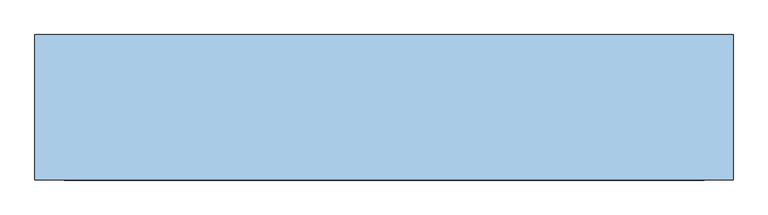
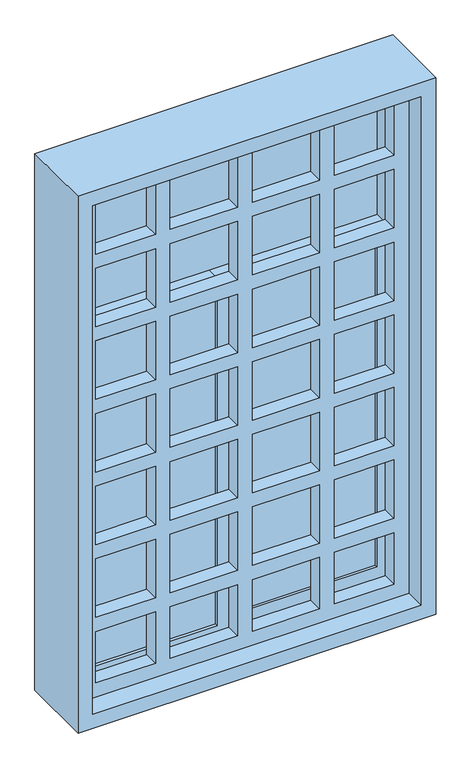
"""IFC4 building model written with IfcOpenShell, lengths in millimetres: window geometry, LC9_带格栅 : LC9_带格栅."""

import ifcopenshell
import ifcopenshell.guid

model = None  # the IFC model being written
_history = None  # IfcOwnerHistory: only IFC2X3 demands one
_inside = {}  # id of a spatial element -> (the spatial element, [elements in it])
_under = {}  # id of a project, library or spatial element -> (it, [spatial elements below it])
_declared = {}  # id of a project -> (the project, [libraries it declares])
_typed = {}  # id of a type object -> (the type object, [elements of that type])
_made_of = {}  # id of a material, layer set ... -> (it, [elements and type objects made of it])


def new_model(schema):
    """Start an empty IFC model of exactly this schema.

    Asked for "IFC4X3", IfcOpenShell would pick the latest addendum, in which some entities
    have other attributes; the version numbers below select the first issue.
    IFC2X3 requires an IfcOwnerHistory on every rooted entity: one is made here for all.
    """
    global model, _history
    if schema == "IFC4X3":
        model = ifcopenshell.file(schema_version=(4, 3, 0, 0))
    else:
        model = ifcopenshell.file(schema=schema)
    _inside.clear()
    _under.clear()
    _declared.clear()
    _typed.clear()
    _made_of.clear()
    _history = None
    if model.schema == "IFC2X3":
        org = make("IfcOrganization", Name="unknown")
        user = make(
            "IfcPersonAndOrganization",
            ThePerson=make("IfcPerson", FamilyName="unknown"),
            TheOrganization=org,
        )
        app = make(
            "IfcApplication",
            ApplicationDeveloper=org,
            Version="unknown",
            ApplicationFullName="unknown",
            ApplicationIdentifier="unknown",
        )
        _history = make(
            "IfcOwnerHistory",
            OwningUser=user,
            OwningApplication=app,
            ChangeAction="ADDED",
            CreationDate=0,
        )
    return model


def make(cls, **values):
    """One entity of the class cls with the attributes given. An attribute that is None is left unset."""
    return model.create_entity(
        cls, **{name: value for name, value in values.items() if value is not None}
    )


def rooted(cls, **values):
    """An entity with a GlobalId (a new one), such as an element, a storey or a relation."""
    return make(cls, GlobalId=ifcopenshell.guid.new(), OwnerHistory=_history, **values)


def si_unit(unit_type, name, prefix=None):
    """IfcSIUnit, for example si_unit("LENGTHUNIT", "METRE", prefix="MILLI")."""
    return make("IfcSIUnit", UnitType=unit_type, Prefix=prefix, Name=name)


def assignment(units):
    """IfcUnitAssignment: the units of a project."""
    return None if units is None else make("IfcUnitAssignment", Units=units)


def point(xyz):
    """IfcCartesianPoint."""
    return None if xyz is None else make("IfcCartesianPoint", Coordinates=xyz)


def direction(xyz):
    """IfcDirection."""
    return None if xyz is None else make("IfcDirection", DirectionRatios=xyz)


def frame(location, z_axis=None, x_axis=None):
    """IfcAxis2Placement3D, a coordinate frame: its origin and axes. An axis left out is left unset."""
    return make(
        "IfcAxis2Placement3D",
        Location=point(location),
        Axis=direction(z_axis),
        RefDirection=direction(x_axis),
    )


def origin():
    """The frame at (0, 0, 0) with its axes left unset."""
    return frame((0.0, 0.0, 0.0))


def place(relative_to, where):
    """IfcLocalPlacement: puts the frame where relative to a parent placement (None: the world)."""
    return make(
        "IfcLocalPlacement", PlacementRelTo=relative_to, RelativePlacement=where
    )


def context(
    kind, dimensions, precision=None, world=None, true_north=None, identifier=None
):
    """IfcGeometricRepresentationContext, for example the 3D "Model" context."""
    return make(
        "IfcGeometricRepresentationContext",
        ContextIdentifier=identifier,
        ContextType=kind,
        CoordinateSpaceDimension=dimensions,
        Precision=precision,
        WorldCoordinateSystem=world,
        TrueNorth=true_north,
    )


def project(units=None, contexts=None):
    """IfcProject with its units and contexts."""
    return rooted(
        "IfcProject",
        Name="project",
        RepresentationContexts=contexts,
        UnitsInContext=assignment(units),
    )


def spatial(cls, under=None, at=None, **own):
    """A site, building, storey or space (cls), placed at a placement, below another one or the project."""
    s = rooted(cls, ObjectPlacement=at, **own)
    if under is not None:
        _under.setdefault(under.id(), (under, []))[1].append(s)
    return s


def polyline(points):
    """IfcPolyline through the points."""
    return make("IfcPolyline", Points=[point(p) for p in points])


def outline(outer, holes=None, kind="AREA"):
    """IfcArbitraryClosedProfileDef: a profile drawn as a closed curve; with holes, ...WithVoids."""
    if holes is None:
        return make("IfcArbitraryClosedProfileDef", ProfileType=kind, OuterCurve=outer)
    return make(
        "IfcArbitraryProfileDefWithVoids",
        ProfileType=kind,
        OuterCurve=outer,
        InnerCurves=holes,
    )


def extrude(swept, where, along, depth):
    """IfcExtrudedAreaSolid: the profile swept, set in the frame where, extruded along a direction by depth."""
    return make(
        "IfcExtrudedAreaSolid",
        SweptArea=swept,
        Position=where,
        ExtrudedDirection=direction(along),
        Depth=depth,
    )


def shape(context_of_items, identifier, shape_type, items):
    """IfcShapeRepresentation: the items that make up one representation, for example the "Body"."""
    return make(
        "IfcShapeRepresentation",
        ContextOfItems=context_of_items,
        RepresentationIdentifier=identifier,
        RepresentationType=shape_type,
        Items=items,
    )


def source(mapping_origin, context_of_items, identifier, shape_type, items):
    """IfcRepresentationMap: a shape defined once, which mapped items show again and again."""
    return make(
        "IfcRepresentationMap",
        MappingOrigin=mapping_origin,
        MappedRepresentation=shape(context_of_items, identifier, shape_type, items),
    )


def transform(
    local_origin,
    x_axis=None,
    y_axis=None,
    z_axis=None,
    scale=None,
    scale2=None,
    scale3=None,
    uniform=True,
):
    """IfcCartesianTransformationOperator3D, or its non-uniform kind. x_axis, y_axis, z_axis: its Axis1, 2, 3."""
    if uniform:
        return make(
            "IfcCartesianTransformationOperator3D",
            Axis1=direction(x_axis),
            Axis2=direction(y_axis),
            LocalOrigin=point(local_origin),
            Scale=scale,
            Axis3=direction(z_axis),
        )
    return make(
        "IfcCartesianTransformationOperator3DnonUniform",
        Axis1=direction(x_axis),
        Axis2=direction(y_axis),
        LocalOrigin=point(local_origin),
        Scale=scale,
        Axis3=direction(z_axis),
        Scale2=scale2,
        Scale3=scale3,
    )


def mapped(mapping_source, mapping_target):
    """IfcMappedItem: shows the shape of a source again, moved by a transform."""
    return make(
        "IfcMappedItem", MappingSource=mapping_source, MappingTarget=mapping_target
    )


def made_of(thing, what):
    """Note that an element or type object is made of a material, layer set ...; save() writes the relation."""
    if what is not None:
        _made_of.setdefault(what.id(), (what, []))[1].append(thing)
    return thing


def element(
    cls,
    number,
    at=None,
    inside=None,
    cuts=None,
    type_object=None,
    material=None,
    context=None,
    identifier="Body",
    shape_type=None,
    held_by="IfcProductDefinitionShape",
    body=None,
    shapes=None,
    **own,
):
    """One element of the class cls, such as IfcWall. Its Tag is "e" and its number.

    at: its placement. inside: the storey or other place that contains it. cuts: it is an
    opening in that element (IfcRelVoidsElement). A single representation is given by context,
    identifier, shape_type and body (its items); several are given by shapes. held_by: the class
    of the entity that holds the representations. save() writes the other relations.
    """
    e = rooted(cls, Tag="e%d" % number, ObjectPlacement=at, **own)
    if body is not None:
        shapes = [shape(context, identifier, shape_type, body)]
    if shapes is not None:
        e.Representation = make(held_by, Representations=shapes)
    if inside is not None:
        _inside.setdefault(inside.id(), (inside, []))[1].append(e)
    if cuts is not None:
        rooted(
            "IfcRelVoidsElement", RelatingBuildingElement=cuts, RelatedOpeningElement=e
        )
    if type_object is not None:
        _typed.setdefault(type_object.id(), (type_object, []))[1].append(e)
    return made_of(e, material)


def aggregate(whole, parts):
    """IfcRelAggregates: a whole, such as a stair, and the parts it consists of."""
    return rooted("IfcRelAggregates", RelatingObject=whole, RelatedObjects=parts)


def save(model, path):
    """Write the relations noted so far, then the file.

    IfcRelAggregates (storeys below a building ...), IfcRelContainedInSpatialStructure (elements
    in a storey), IfcRelDefinesByType, IfcRelAssociatesMaterial and IfcRelDeclares: one each for
    every whole, place, type object, material and project.
    """
    for whole, parts in _under.values():
        aggregate(whole, parts)
    for where, things in _inside.values():
        rooted(
            "IfcRelContainedInSpatialStructure",
            RelatedElements=things,
            RelatingStructure=where,
        )
    for kind, things in _typed.values():
        rooted("IfcRelDefinesByType", RelatedObjects=things, RelatingType=kind)
    for what, things in _made_of.values():
        rooted("IfcRelAssociatesMaterial", RelatedObjects=things, RelatingMaterial=what)
    for by, libraries in _declared.values():
        rooted("IfcRelDeclares", RelatingContext=by, RelatedDefinitions=libraries)
    model.write(path)


def window_f5fa71fb(model_context):
    return source(origin(), model_context, "Body", "SweptSolid", [
        extrude(outline(polyline([(3350.0, 550.0), (3350.0, -550.0), (1550.0, -550.0), (1550.0, 550.0), (3350.0, 550.0)]), holes=[polyline([(3300.0, -300.0), (3117.8571429, -300.0), (3117.8571429, -500.0), (3300.0, -500.0), (3300.0, -300.0)]), polyline([(3300.0, -25.0), (3117.8571429, -25.0), (3117.8571429, -250.0), (3300.0, -250.0), (3300.0, -25.0)]), polyline([(3300.0, 250.0), (3117.8571429, 250.0), (3117.8571429, 25.0), (3300.0, 25.0), (3300.0, 250.0)]), polyline([(3300.0, 500.0), (3117.8571429, 500.0), (3117.8571429, 300.0), (3300.0, 300.0), (3300.0, 500.0)]), polyline([(3067.8571429, -300.0), (2860.7142857, -300.0), (2860.7142857, -500.0), (3067.8571429, -500.0), (3067.8571429, -300.0)]), polyline([(3067.8571429, -25.0), (2860.7142857, -25.0), (2860.7142857, -250.0), (3067.8571429, -250.0), (3067.8571429, -25.0)]), polyline([(3067.8571429, 250.0), (2860.7142857, 250.0), (2860.7142857, 25.0), (3067.8571429, 25.0), (3067.8571429, 250.0)]), polyline([(3067.8571429, 500.0), (2860.7142857, 500.0), (2860.7142857, 300.0), (3067.8571429, 300.0), (3067.8571429, 500.0)]), polyline([(2810.7142857, -300.0), (2603.5714286, -300.0), (2603.5714286, -500.0), (2810.7142857, -500.0), (2810.7142857, -300.0)]), polyline([(2810.7142857, -25.0), (2603.5714286, -25.0), (2603.5714286, -250.0), (2810.7142857, -250.0), (2810.7142857, -25.0)]), polyline([(2810.7142857, 250.0), (2603.5714286, 250.0), (2603.5714286, 25.0), (2810.7142857, 25.0), (2810.7142857, 250.0)]), polyline([(2810.7142857, 500.0), (2603.5714286, 500.0), (2603.5714286, 300.0), (2810.7142857, 300.0), (2810.7142857, 500.0)]), polyline([(2553.5714286, -300.0), (2346.4285714, -300.0), (2346.4285714, -500.0), (2553.5714286, -500.0), (2553.5714286, -300.0)]), polyline([(2553.5714286, -25.0), (2346.4285714, -25.0), (2346.4285714, -250.0), (2553.5714286, -250.0), (2553.5714286, -25.0)]), polyline([(2553.5714286, 250.0), (2346.4285714, 250.0), (2346.4285714, 25.0), (2553.5714286, 25.0), (2553.5714286, 250.0)]), polyline([(2553.5714286, 500.0), (2346.4285714, 500.0), (2346.4285714, 300.0), (2553.5714286, 300.0), (2553.5714286, 500.0)]), polyline([(2296.4285714, -300.0), (2089.2857143, -300.0), (2089.2857143, -500.0), (2296.4285714, -500.0), (2296.4285714, -300.0)]), polyline([(2296.4285714, -25.0), (2089.2857143, -25.0), (2089.2857143, -250.0), (2296.4285714, -250.0), (2296.4285714, -25.0)]), polyline([(2296.4285714, 250.0), (2089.2857143, 250.0), (2089.2857143, 25.0), (2296.4285714, 25.0), (2296.4285714, 250.0)]), polyline([(2296.4285714, 500.0), (2089.2857143, 500.0), (2089.2857143, 300.0), (2296.4285714, 300.0), (2296.4285714, 500.0)]), polyline([(2039.2857143, -300.0), (1832.1428571, -300.0), (1832.1428571, -500.0), (2039.2857143, -500.0), (2039.2857143, -300.0)]), polyline([(2039.2857143, -25.0), (1832.1428571, -25.0), (1832.1428571, -250.0), (2039.2857143, -250.0), (2039.2857143, -25.0)]), polyline([(2039.2857143, 250.0), (1832.1428571, 250.0), (1832.1428571, 25.0), (2039.2857143, 25.0), (2039.2857143, 250.0)]), polyline([(2039.2857143, 500.0), (1832.1428571, 500.0), (1832.1428571, 300.0), (2039.2857143, 300.0), (2039.2857143, 500.0)]), polyline([(1782.1428571, -300.0), (1600.0, -300.0), (1600.0, -500.0), (1782.1428571, -500.0), (1782.1428571, -300.0)]), polyline([(1782.1428571, -25.0), (1600.0, -25.0), (1600.0, -250.0), (1782.1428571, -250.0), (1782.1428571, -25.0)]), polyline([(1782.1428571, 250.0), (1600.0, 250.0), (1600.0, 25.0), (1782.1428571, 25.0), (1782.1428571, 250.0)]), polyline([(1782.1428571, 500.0), (1600.0, 500.0), (1600.0, 300.0), (1782.1428571, 300.0), (1782.1428571, 500.0)])]), frame((0.0, -46.3011339, 0.0), z_axis=(0.0, 1.0, 0.0), x_axis=(0.0, 0.0, 1.0)), (0.0, 0.0, 1.0), 50.0),
        extrude(outline(polyline([(500.0, 63.7293154), (50.0, 63.7293154), (50.0, 68.7293154), (500.0, 68.7293154), (500.0, 63.7293154)])), frame((0.0, 0.0, 1600.0), z_axis=(0.0, 0.0, 1.0), x_axis=(1.0, 0.0, 0.0)), (0.0, 0.0, 1.0), 1150.0),
        extrude(outline(polyline([(-50.0, 38.7597648), (-500.0, 38.7597648), (-500.0, 43.7293154), (-50.0, 43.7293154), (-50.0, 38.7597648)])), frame((0.0, 0.0, 1600.0), z_axis=(0.0, 0.0, 1.0), x_axis=(1.0, 0.0, 0.0)), (0.0, 0.0, 1.0), 1150.0),
        extrude(outline(polyline([(3300.0, -6.8493518), (3300.0, -500.0), (2850.0, -500.0), (2850.0, -29.856949), (2850.0, 500.0), (3300.0, 500.0), (3300.0, -6.8493518)])), frame((0.0, 51.1988661, 0.0), z_axis=(0.0, 1.0, 0.0), x_axis=(0.0, 0.0, 1.0)), (0.0, 0.0, 1.0), 5.0),
        extrude(outline(polyline([(2800.0, 550.0), (2800.0, 0.0), (1550.0, 0.0), (1550.0, 550.0), (2800.0, 550.0)]), holes=[polyline([(2750.0, 500.0), (1600.0, 500.0), (1600.0, 50.0), (2750.0, 50.0), (2750.0, 500.0)])]), frame((0.0, 53.7293154, 0.0), z_axis=(0.0, 1.0, 0.0), x_axis=(0.0, 0.0, 1.0)), (0.0, 0.0, 1.0), 24.9695506),
        extrude(outline(polyline([(2800.0, 0.0), (2800.0, -550.0), (1550.0, -550.0), (1550.0, 0.0), (2800.0, 0.0)]), holes=[polyline([(2750.0, -50.0), (1600.0, -50.0), (1600.0, -500.0), (2750.0, -500.0), (2750.0, -50.0)])]), frame((0.0, 28.7597648, 0.0), z_axis=(0.0, 1.0, 0.0), x_axis=(0.0, 0.0, 1.0)), (0.0, 0.0, 1.0), 24.9391013),
        extrude(outline(polyline([(3350.0, 550.0), (3350.0, -550.0), (2800.0, -550.0), (2800.0, 1.4599267), (2800.0, 550.0), (3350.0, 550.0)]), holes=[polyline([(3300.0, -42.6389475), (3300.0, 500.0), (2850.0, 500.0), (2850.0, -63.7820671), (2850.0, -500.0), (3300.0, -500.0), (3300.0, -42.6389475)])]), frame((0.0, 3.6988661, 0.0), z_axis=(0.0, 1.0, 0.0), x_axis=(0.0, 0.0, 1.0)), (0.0, 0.0, 1.0), 100.0),
        extrude(outline(polyline([(3400.0, 600.0), (3400.0, -600.0), (1500.0, -600.0), (1500.0, 600.0), (3400.0, 600.0)]), holes=[polyline([(3350.0, 550.0), (1550.0, 550.0), (1550.0, -550.0), (3350.0, -550.0), (3350.0, 550.0)])]), frame((0.0, -116.3011339, 0.0), z_axis=(0.0, 1.0, 0.0), x_axis=(0.0, 0.0, 1.0)), (0.0, 0.0, 1.0), 250.0),
    ])


if __name__ == "__main__":
    model = new_model("IFC4")
    model_context = context("Model", 3, world=origin())
    ifc_project = project(units=[si_unit("LENGTHUNIT", "METRE", prefix="MILLI")], contexts=[model_context])
    site = spatial("IfcSite", under=ifc_project)
    building = spatial("IfcBuilding", under=site)
    placement = place(None, origin())
    window_shape = window_f5fa71fb(model_context)
    element("IfcWindow", 1, ObjectType="LC9_带格栅 : LC9_带格栅", at=placement, inside=building, context=model_context, shape_type="MappedRepresentation", body=[
        mapped(window_shape, transform((0.0, 0.0, 0.0), x_axis=(1.0, 0.0, 0.0), y_axis=(0.0, 1.0, 0.0), z_axis=(0.0, 0.0, 1.0))),
    ])
    save(model, "model.ifc")
